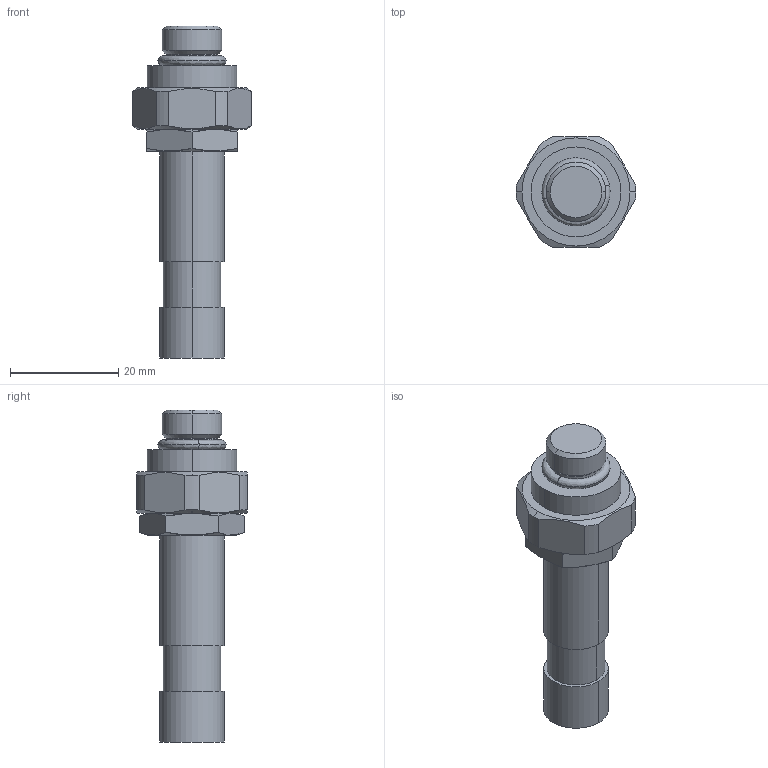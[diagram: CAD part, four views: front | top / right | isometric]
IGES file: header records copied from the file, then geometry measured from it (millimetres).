
Start section:  PTC IGES file: 17l880-en-k.igs
Global section: file name: 17l880-en-k.igs; native system: Creo Parametric by PTC Inc.; preprocessor: 2019030; author: qusrh3; organization: Unknown; date: 20191231.152913; units: inch
Bounding box: 22.1 x 20.32 x 61.21 mm (x, y, z)
Surface area: 4739.6 mm2 (no closed solid volume)
Topology: 0 solids, 0 shells, 54 faces, 236 edges, 236 vertices
Faces by surface type: revolution 34, bspline 20
